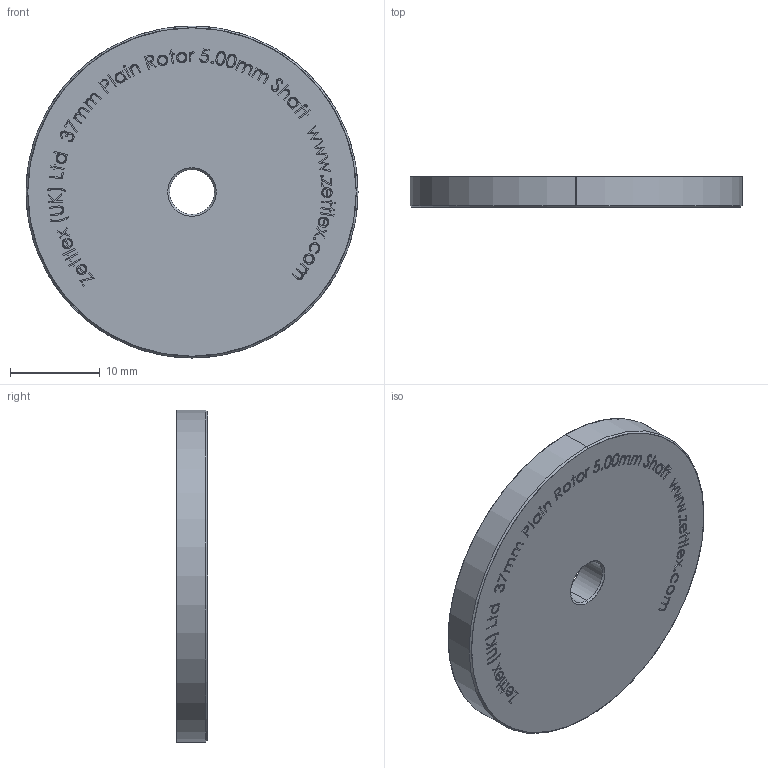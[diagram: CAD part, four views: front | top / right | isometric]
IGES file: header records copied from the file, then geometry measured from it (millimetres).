
Start section: SolidWorks IGES file using analytic representation for surfaces
Global section: file name: C:\Zettlex Data\Mechanical Drawings\4114\37mm Plain Rotor 5.00mm Shaft Rev 1-2.IGS; native system: SolidWorks 2017; preprocessor: SolidWorks 2017; author: Nigel; date: 180208.091355; units: millimetre
Bounding box: 37 x 3.5 x 37 mm (x, y, z)
Surface area: 2590.7 mm2 (no closed solid volume)
Topology: 0 solids, 0 shells, 718 faces, 7600 edges, 7600 vertices
Faces by surface type: bspline 702, revolution 16
